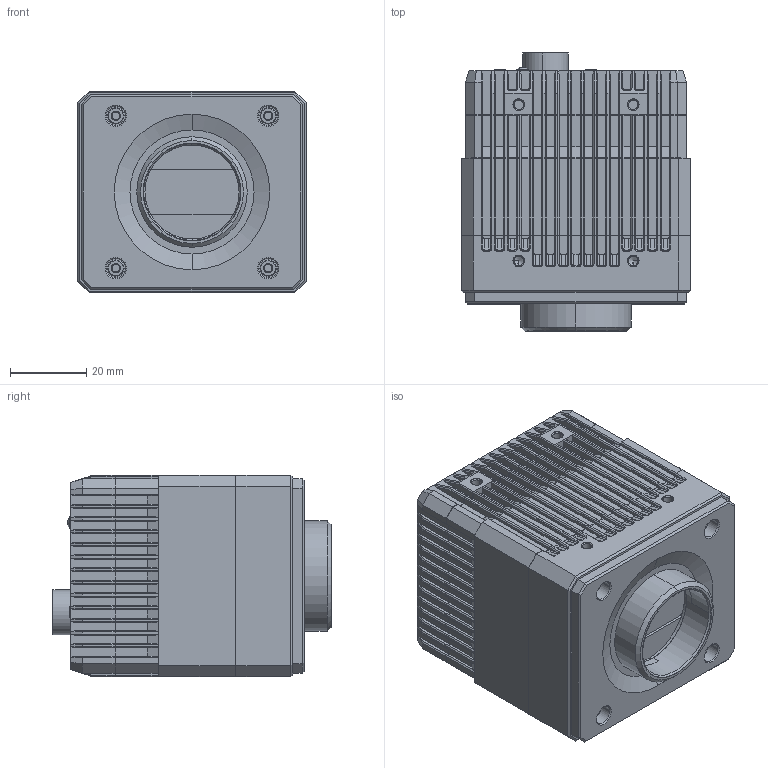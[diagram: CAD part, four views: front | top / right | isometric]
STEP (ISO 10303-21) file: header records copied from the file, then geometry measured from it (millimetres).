
FILE_DESCRIPTION((''),'2;1');
FILE_NAME('001-XIANZHENWAIDAO-1K','2025-02-19T14:11:48',('zhangqianwen8'),(''),'CREO PARAMETRIC BY PTC INC, 2020044','CREO PARAMETRIC BY PTC INC, 2020044','');
FILE_SCHEMA(('CONFIG_CONTROL_DESIGN'));
Products named in the file (1): 001-XIANZHENWAIDAO-1K
Bounding box: 60 x 72.99 x 53 mm (x, y, z)
Volume: 2864.6 mm3; surface area: 40136.6 mm2
Topology: 13 solids, 51 shells, 2275 faces, 6043 edges, 3861 vertices
Faces by surface type: plane 1711, cylinder 315, cone 165, extrusion 62, bspline 18, torus 4
Entity records: 74905 total; most frequent: CARTESIAN_POINT 18461, ORIENTED_EDGE 11825, DIRECTION 11161, EDGE_CURVE 6031, VECTOR 4915, LINE 4853, VERTEX_POINT 3861, AXIS2_PLACEMENT_3D 3123
